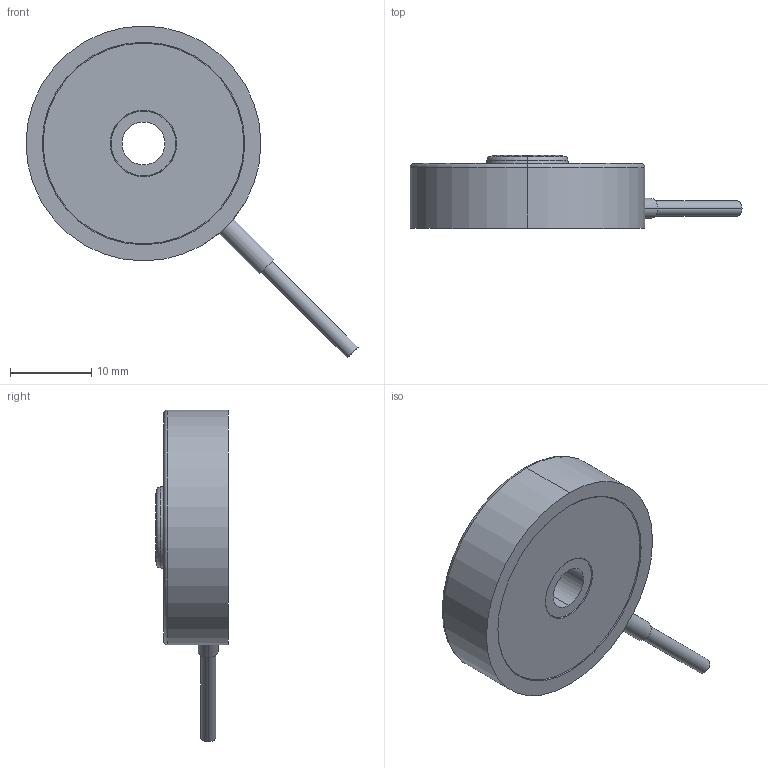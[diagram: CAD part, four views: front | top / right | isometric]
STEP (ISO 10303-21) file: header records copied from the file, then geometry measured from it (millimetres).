
FILE_DESCRIPTION (( 'STEP AP214' ), '1' );
FILE_NAME ('KR29_5kN.STEP', '2021-12-09T10:16:25', ( '' ), ( '' ), 'SwSTEP 2.0', 'SolidWorks 2018', '' );
FILE_SCHEMA (( 'AUTOMOTIVE_DESIGN' ));
Length unit declared in the file: millimetre
Products named in the file (5): E-2021-0050-01319_K-Modell 5kN; NT-2021-00171_ME-Art.: 6820, 3,1m konfektioniert; E-2021-0050-01321; E-2021-0050-01323; KR29_5kN
Assembly tree (4 placements, depth 2):
  KR29_5kN
    E-2021-0050-01319_K-Modell 5kN
    E-2021-0050-01321
    E-2021-0050-01323
    NT-2021-00171_ME-Art.: 6820, 3,1m konfektioniert
Bounding box: 40.98 x 9 x 40.98 mm (x, y, z)
Volume: 3742.6 mm3; surface area: 4456.2 mm2
Topology: 4 solids, 4 shells, 67 faces, 141 edges, 90 vertices
Faces by surface type: cylinder 28, torus 18, plane 17, cone 4
Entity records: 2169 total; most frequent: CARTESIAN_POINT 383, DIRECTION 378, ORIENTED_EDGE 282, AXIS2_PLACEMENT_3D 169, EDGE_CURVE 141, CIRCLE 95, VERTEX_POINT 90, EDGE_LOOP 83
